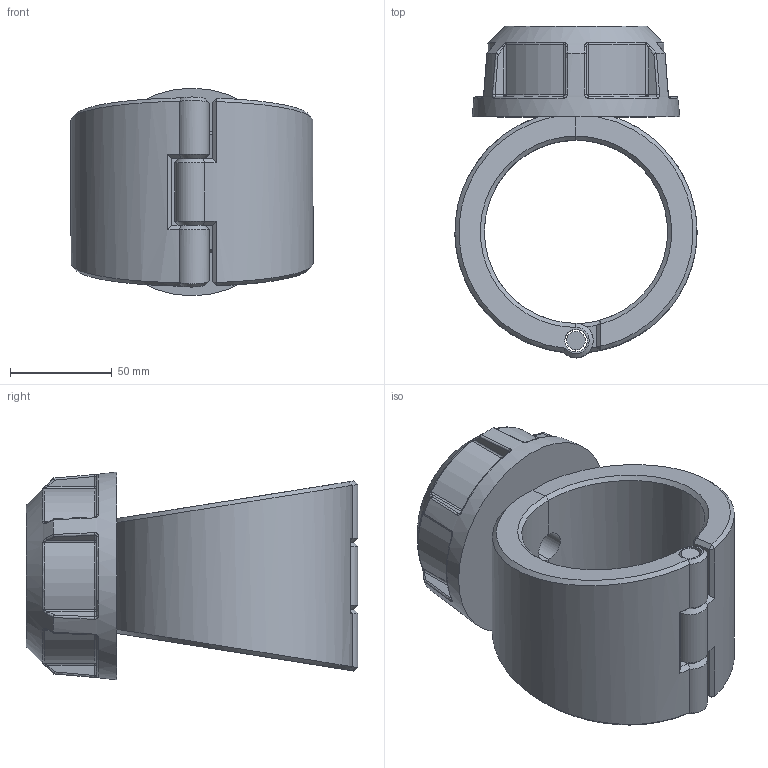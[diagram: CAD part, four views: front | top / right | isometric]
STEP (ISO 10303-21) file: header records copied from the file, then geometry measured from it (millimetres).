
FILE_DESCRIPTION(/* description */ ('Plassadle Threaded 90x1'''''),/* implementation_level */ '2;1');
FILE_NAME(/* name */ 'C:\Users\comp2\Dropbox\99-16-3568-Processing\Mechanical Fittings\16300\stp\163000090010.stp',/* time_stamp */ '2022-02-03T11:47:15+00:00',/* author */ ('comp2'),/* organization */ (''),/* preprocessor_version */ 'ST-DEVELOPER v17.2',/* originating_system */ 'Autodesk Inventor 2019',/* authorisation */ '');
FILE_SCHEMA (('AUTOMOTIVE_DESIGN { 1 0 10303 214 3 1 1 }'));
Length unit declared in the file: millimetre
Products named in the file (1): 163000090010
Bounding box: 118.98 x 163 x 102 mm (x, y, z)
Volume: 596925.6 mm3; surface area: 97143 mm2
Topology: 4 solids, 4 shells, 203 faces, 486 edges, 293 vertices
Faces by surface type: bspline 58, plane 53, cylinder 47, torus 18, cone 15, sphere 12
Full cylindrical faces by diameter (mm): 9.08 x1, 11.08 x3, 15.146 x1, 25.747 x1, 30.291 x1, 45.437 x1
Entity records: 8270 total; most frequent: CARTESIAN_POINT 3923, ORIENTED_EDGE 972, DIRECTION 781, EDGE_CURVE 486, AXIS2_PLACEMENT_3D 330, VERTEX_POINT 293, EDGE_LOOP 213, FACE_OUTER_BOUND 203
